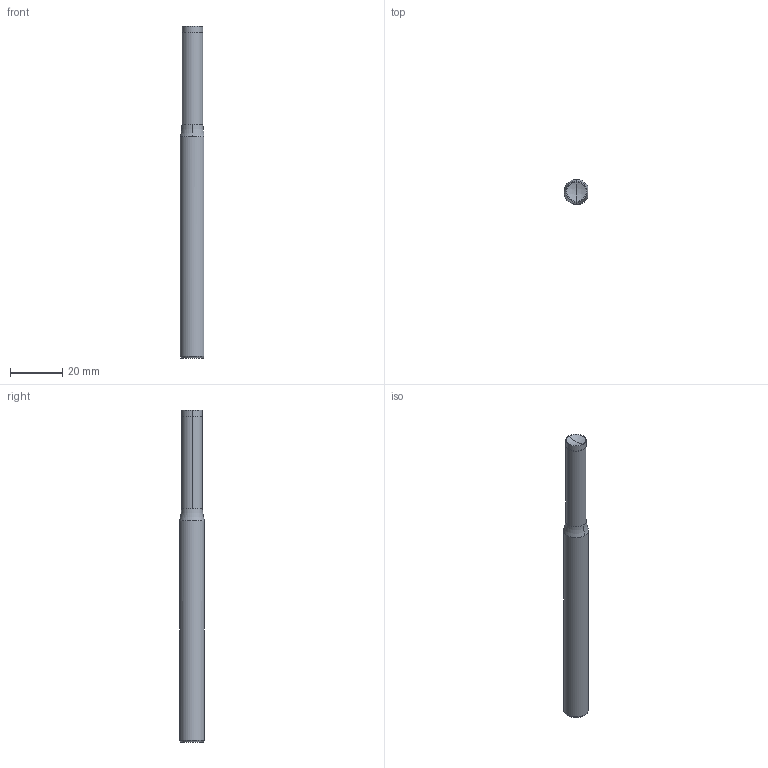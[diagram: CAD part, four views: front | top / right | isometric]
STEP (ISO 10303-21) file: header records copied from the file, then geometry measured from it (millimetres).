
FILE_DESCRIPTION (( 'STEP AP203' ), '1' );
FILE_NAME ('39000.1080.step', '2023-12-18T13:18:31', ( '' ), ( '' ), 'SwSTEP 2.0', 'SolidWorks 2019', '' );
FILE_SCHEMA (( 'CONFIG_CONTROL_DESIGN' ));
Length unit declared in the file: millimetre
Products named in the file (1): 39000.1080
Bounding box: 9.16 x 9.53 x 127 mm (x, y, z)
Volume: 8095.9 mm3; surface area: 3713.3 mm2
Topology: 1 solids, 1 shells, 15 faces, 33 edges, 22 vertices
Faces by surface type: cylinder 5, plane 4, cone 2, torus 2, sphere 2
Entity records: 532 total; most frequent: CARTESIAN_POINT 102, DIRECTION 85, ORIENTED_EDGE 66, AXIS2_PLACEMENT_3D 39, EDGE_CURVE 33, CIRCLE 23, VERTEX_POINT 22, EDGE_LOOP 17
